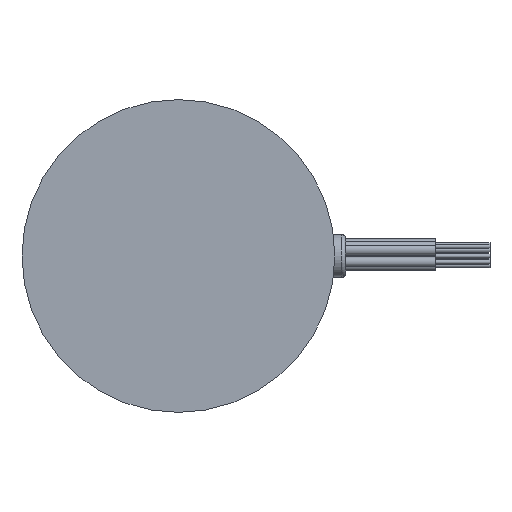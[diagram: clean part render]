
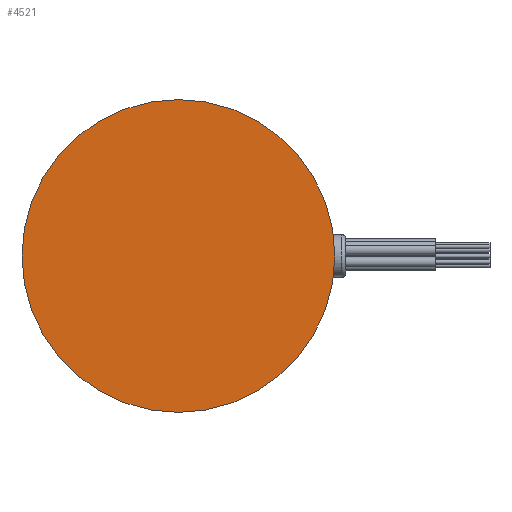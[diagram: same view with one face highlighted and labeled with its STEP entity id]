
A CAD part, front view. The second image highlights one B-rep face of the part: STEP entity #4521.
In plain terms, the highlighted planar face has unit normal (0, -1, 0).
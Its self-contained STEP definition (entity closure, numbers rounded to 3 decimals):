
#329 = AXIS2_PLACEMENT_3D ( 'NONE', #6697, #4911, #2494 ) ;
#511 = CARTESIAN_POINT ( 'NONE',  ( 18.558, 19.015, 89.697 ) ) ;
#695 = EDGE_LOOP ( 'NONE', ( #6183, #1508 ) ) ;
#919 = CARTESIAN_POINT ( 'NONE',  ( 18.558, 19.015, 111.697 ) ) ;
#987 = DIRECTION ( 'NONE',  ( 0., 1., 0. ) ) ;
#1508 = ORIENTED_EDGE ( 'NONE', *, *, #7175, .F. ) ;
#2035 = VERTEX_POINT ( 'NONE', #7464 ) ;
#2444 = AXIS2_PLACEMENT_3D ( 'NONE', #2893, #2839, #7179 ) ;
#2494 = DIRECTION ( 'NONE',  ( 0., 0., 1. ) ) ;
#2839 = DIRECTION ( 'NONE',  ( 0., 1., 0. ) ) ;
#2893 = CARTESIAN_POINT ( 'NONE',  ( 18.558, 19.015, 89.697 ) ) ;
#4094 = PLANE ( 'NONE',  #4484 ) ;
#4484 = AXIS2_PLACEMENT_3D ( 'NONE', #511, #987, #7122 ) ;
#4485 = EDGE_CURVE ( 'NONE', #6269, #2035, #7772, .T. ) ;
#4521 = ADVANCED_FACE ( 'NONE', ( #6144 ), #4094, .F. ) ;
#4911 = DIRECTION ( 'NONE',  ( 0., 1., 0. ) ) ;
#6144 = FACE_OUTER_BOUND ( 'NONE', #695, .T. ) ;
#6183 = ORIENTED_EDGE ( 'NONE', *, *, #4485, .F. ) ;
#6269 = VERTEX_POINT ( 'NONE', #919 ) ;
#6697 = CARTESIAN_POINT ( 'NONE',  ( 18.558, 19.015, 89.697 ) ) ;
#7088 = CIRCLE ( 'NONE', #329, 22. ) ;
#7122 = DIRECTION ( 'NONE',  ( 0., 0., 1. ) ) ;
#7175 = EDGE_CURVE ( 'NONE', #2035, #6269, #7088, .T. ) ;
#7179 = DIRECTION ( 'NONE',  ( 0., 0., 1. ) ) ;
#7464 = CARTESIAN_POINT ( 'NONE',  ( 18.558, 19.015, 67.697 ) ) ;
#7772 = CIRCLE ( 'NONE', #2444, 22. ) ;
